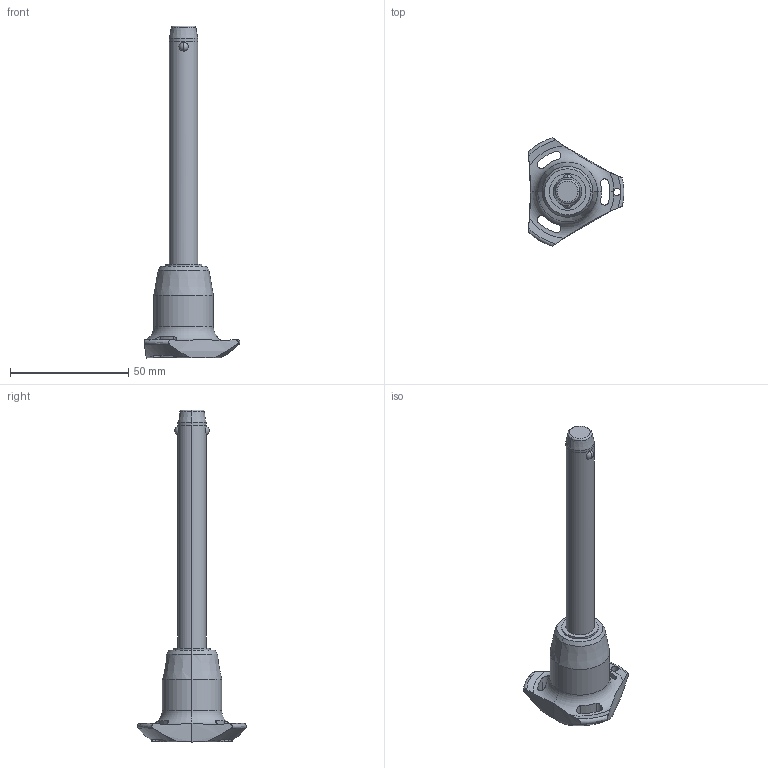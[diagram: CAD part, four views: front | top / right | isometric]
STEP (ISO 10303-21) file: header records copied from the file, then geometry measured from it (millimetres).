
FILE_DESCRIPTION (( 'STEP AP203' ), '1' );
FILE_NAME ('QR1716.M12-090-T.step', '2025-11-13T10:37:32', ( '' ), ( '' ), 'SwSTEP 2.0', 'SolidWorks 2019', '' );
FILE_SCHEMA (( 'CONFIG_CONTROL_DESIGN' ));
Length unit declared in the file: millimetre
Products named in the file (1): QR1716.M12-090-T
Bounding box: 40.5 x 45.88 x 140.3 mm (x, y, z)
Volume: 31952.7 mm3; surface area: 9666.2 mm2
Topology: 1 solids, 1 shells, 68 faces, 183 edges, 116 vertices
Faces by surface type: cylinder 32, cone 14, torus 11, sphere 6, plane 5
Entity records: 2915 total; most frequent: CARTESIAN_POINT 1162, ORIENTED_EDGE 366, DIRECTION 346, EDGE_CURVE 183, AXIS2_PLACEMENT_3D 154, VERTEX_POINT 116, CIRCLE 85, EDGE_LOOP 75
